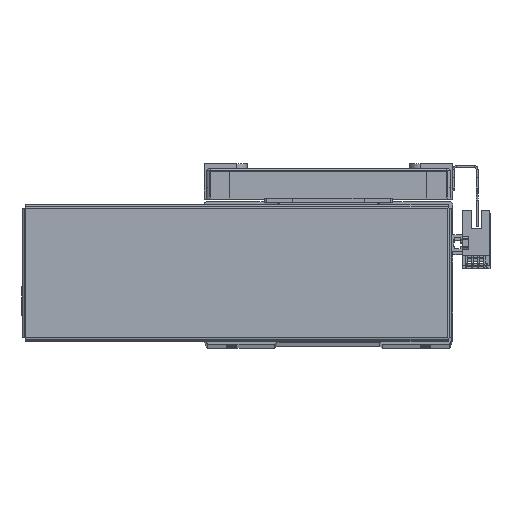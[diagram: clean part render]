
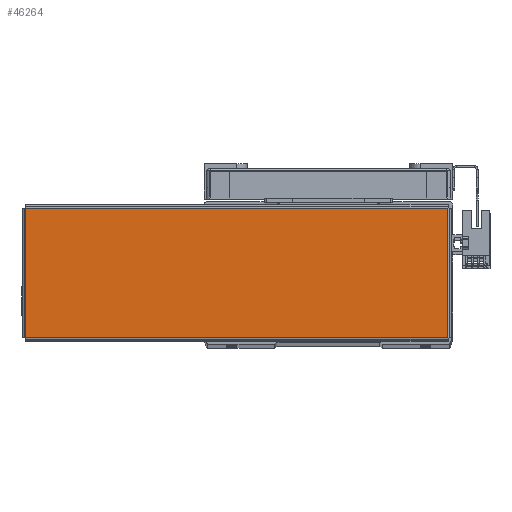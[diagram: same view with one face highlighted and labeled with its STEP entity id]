
A CAD part, top view. The second image highlights one B-rep face of the part: STEP entity #46264.
In plain terms, the highlighted planar face has unit normal (0, 0, 1) as drawn and (0, -1, 0) by its records, which use the part's own axes.
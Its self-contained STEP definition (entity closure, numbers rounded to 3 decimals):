
#7599 = CARTESIAN_POINT ( 'NONE',  ( 103.793, -1., 31.763 ) ) ;
#7607 = DIRECTION ( 'NONE',  ( -1., 0., 0. ) ) ;
#7618 = DIRECTION ( 'NONE',  ( 1., 0., 0. ) ) ;
#7625 = CARTESIAN_POINT ( 'NONE',  ( -103.793, -1., -31.763 ) ) ;
#7629 = CARTESIAN_POINT ( 'NONE',  ( 103.763, -1., -31.793 ) ) ;
#7631 = CARTESIAN_POINT ( 'NONE',  ( -103.763, -1., 31.793 ) ) ;
#7648 = DIRECTION ( 'NONE',  ( 0., 0., -1. ) ) ;
#7665 = DIRECTION ( 'NONE',  ( 0., 0., 1. ) ) ;
#13685 = VECTOR ( 'NONE', #7607, 1000. ) ;
#13687 = VECTOR ( 'NONE', #7648, 1000. ) ;
#13693 = VECTOR ( 'NONE', #7618, 1000. ) ;
#13695 = LINE ( 'NONE', #7629, #13744 ) ;
#13703 = LINE ( 'NONE', #7625, #13693 ) ;
#13725 = LINE ( 'NONE', #7599, #13685 ) ;
#13744 = VECTOR ( 'NONE', #7665, 1000. ) ;
#13760 = LINE ( 'NONE', #7631, #13687 ) ;
#26668 = PLANE ( 'NONE',  #35203 ) ;
#26671 = DIRECTION ( 'NONE',  ( 0., 0., 1. ) ) ;
#26677 = DIRECTION ( 'NONE',  ( 0., 1., 0. ) ) ;
#26741 = CARTESIAN_POINT ( 'NONE',  ( 0., -1., 0. ) ) ;
#30123 = VERTEX_POINT ( 'NONE', #42920 ) ;
#30131 = VERTEX_POINT ( 'NONE', #42892 ) ;
#30134 = VERTEX_POINT ( 'NONE', #42929 ) ;
#30142 = VERTEX_POINT ( 'NONE', #42868 ) ;
#33312 = FACE_OUTER_BOUND ( 'NONE', #51141, .T. ) ;
#35203 = AXIS2_PLACEMENT_3D ( 'NONE', #26741, #26677, #26671 ) ;
#42868 = CARTESIAN_POINT ( 'NONE',  ( -103.763, -1., 31.763 ) ) ;
#42892 = CARTESIAN_POINT ( 'NONE',  ( 103.763, -1., -31.763 ) ) ;
#42920 = CARTESIAN_POINT ( 'NONE',  ( 103.763, -1., 31.763 ) ) ;
#42929 = CARTESIAN_POINT ( 'NONE',  ( -103.763, -1., -31.763 ) ) ;
#46264 = ADVANCED_FACE ( 'NONE', ( #33312 ), #26668, .F. ) ;
#46532 = EDGE_CURVE ( 'NONE', #30123, #30142, #13725, .T. ) ;
#46535 = EDGE_CURVE ( 'NONE', #30134, #30131, #13703, .T. ) ;
#46537 = EDGE_CURVE ( 'NONE', #30131, #30123, #13695, .T. ) ;
#46538 = EDGE_CURVE ( 'NONE', #30142, #30134, #13760, .T. ) ;
#48181 = ORIENTED_EDGE ( 'NONE', *, *, #46537, .T. ) ;
#48184 = ORIENTED_EDGE ( 'NONE', *, *, #46538, .T. ) ;
#48219 = ORIENTED_EDGE ( 'NONE', *, *, #46532, .T. ) ;
#48301 = ORIENTED_EDGE ( 'NONE', *, *, #46535, .T. ) ;
#51141 = EDGE_LOOP ( 'NONE', ( #48219, #48184, #48301, #48181 ) ) ;
